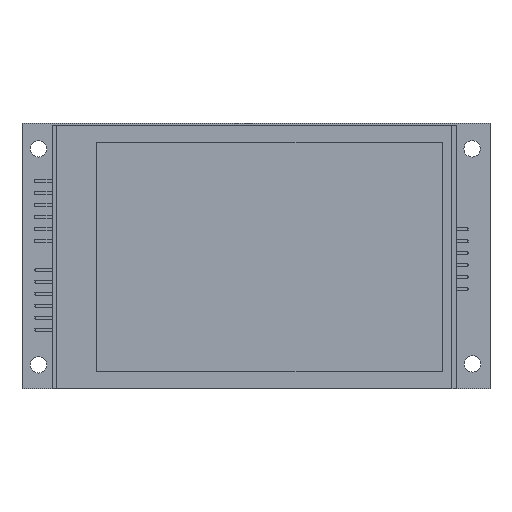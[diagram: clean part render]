
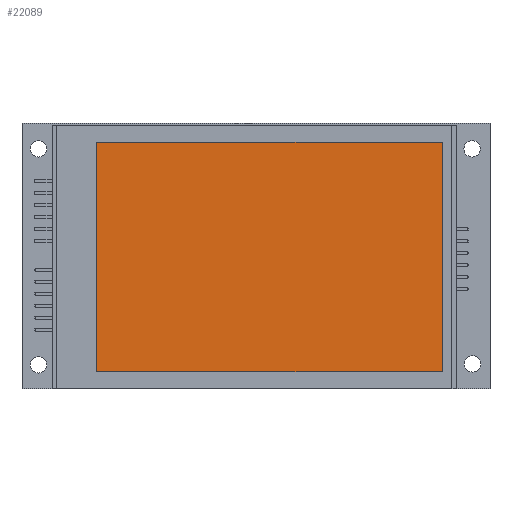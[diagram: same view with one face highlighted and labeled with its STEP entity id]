
A CAD part, top view. The second image highlights one B-rep face of the part: STEP entity #22089.
In plain terms, the highlighted planar face has unit normal (0, 0, 1).
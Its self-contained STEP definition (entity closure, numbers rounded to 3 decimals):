
#2447=PLANE('',#47427);
#4791=FACE_OUTER_BOUND('',#7453,.F.);
#7453=EDGE_LOOP('',(#19389,#19390,#19391,#19392));
#19389=ORIENTED_EDGE('',*,*,#39790,.F.);
#19390=ORIENTED_EDGE('',*,*,#39785,.F.);
#19391=ORIENTED_EDGE('',*,*,#39787,.T.);
#19392=ORIENTED_EDGE('',*,*,#39786,.T.);
#22089=ADVANCED_FACE('',(#4791),#2447,.T.);
#28668=LINE('',#76825,#33779);
#28669=LINE('',#76826,#33780);
#28670=LINE('',#76827,#33781);
#28673=LINE('',#76830,#33784);
#33779=VECTOR('',#58694,48.8);
#33780=VECTOR('',#58695,48.8);
#33781=VECTOR('',#58696,73.4);
#33784=VECTOR('',#58699,73.4);
#39785=EDGE_CURVE('',#43958,#43957,#28668,.T.);
#39786=EDGE_CURVE('',#43956,#43955,#28669,.T.);
#39787=EDGE_CURVE('',#43958,#43956,#28670,.T.);
#39790=EDGE_CURVE('',#43957,#43955,#28673,.T.);
#43955=VERTEX_POINT('',#76805);
#43956=VERTEX_POINT('',#76806);
#43957=VERTEX_POINT('',#76807);
#43958=VERTEX_POINT('',#76808);
#47427=AXIS2_PLACEMENT_3D('',#77052,#59038,#59039);
#58694=DIRECTION('',(0.,-1.,0.));
#58695=DIRECTION('',(0.,-1.,0.));
#58696=DIRECTION('',(1.,0.,0.));
#58699=DIRECTION('',(1.,0.,0.));
#59038=DIRECTION('',(0.,0.,1.));
#59039=DIRECTION('',(1.,0.,0.));
#76805=CARTESIAN_POINT('',(-55.784,-65.95,18.331));
#76806=CARTESIAN_POINT('',(-55.784,-17.15,18.331));
#76807=CARTESIAN_POINT('',(-129.184,-65.95,18.331));
#76808=CARTESIAN_POINT('',(-129.184,-17.15,18.331));
#76825=CARTESIAN_POINT('',(-129.184,-17.15,18.331));
#76826=CARTESIAN_POINT('',(-55.784,-17.15,18.331));
#76827=CARTESIAN_POINT('',(-129.184,-17.15,18.331));
#76830=CARTESIAN_POINT('',(-129.184,-65.95,18.331));
#77052=CARTESIAN_POINT('',(-129.918,-66.684,18.331));
